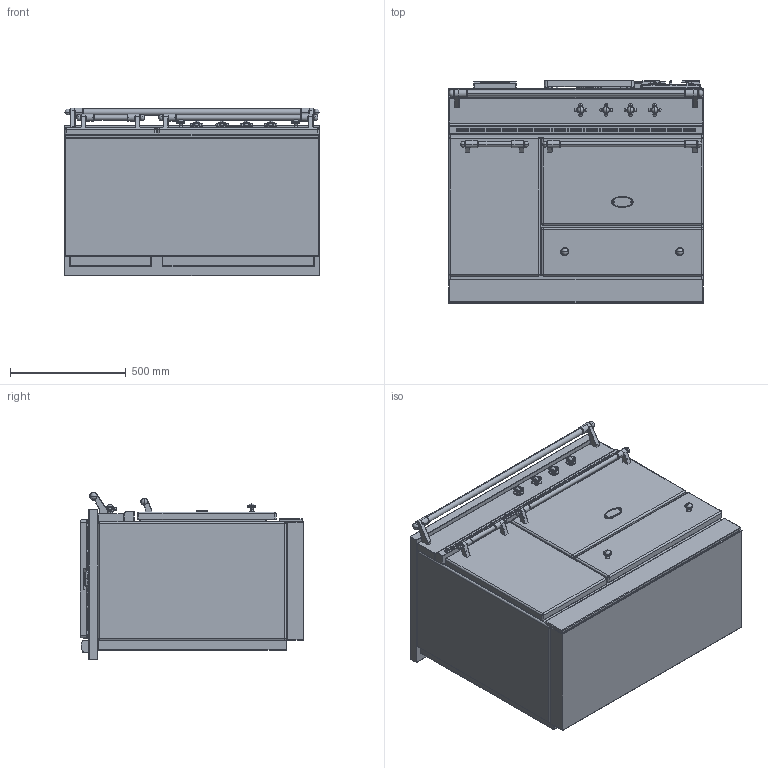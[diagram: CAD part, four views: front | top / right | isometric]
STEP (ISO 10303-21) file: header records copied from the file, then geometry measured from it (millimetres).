
FILE_DESCRIPTION((''),'2;1');
FILE_NAME('LCF1131_CHASSAGNE_ASM','2021-12-02T08:51:48',('r.avril'),(''),'CREO PARAMETRIC BY PTC INC, 2017260','CREO PARAMETRIC BY PTC INC, 2017260','');
FILE_SCHEMA(('AP203_CONFIGURATION_CONTROLLED_3D_DESIGN_OF_MECHANICAL_PARTS_AND_ASSEMBLIES_MIM_LF { 1 0 10303 403 2 1 2 }'));
Products named in the file (27): BASE_EXPORT_CHASSAGNE_LG1131; 65650003; 65650004; 6531940; 6531941; 6531943; 65049009; 65650001; 6538399; 1931942; 65080022_AF0; 6531942_ASM; BASE_EXPORT_CHASSAGNE_LG1131_ASM; TABLE_1105G_CLASSIQUE_3_FEUX; 5KW; 1_5KW; 3KW; 65062008; 65062012; 65149005; 90000549_ASM; 6537023; 90000565_ASM; CHEMINEE_2020_LG182_EXPORT_STEP; CHEMINEE_2020_LG371_EXPORT_STEP; TABLE_1105G_TRADITION_ASM; LCF1131_CHASSAGNE_ASM
Assembly tree (39 placements, depth 4):
  LCF1131_CHASSAGNE_ASM
    BASE_EXPORT_CHASSAGNE_LG1131_ASM
      BASE_EXPORT_CHASSAGNE_LG1131
      65650003
      65650004
      6531940  x2
      6531941  x2
      6531943  x2
      65049009
      65650001
      6531942_ASM  x4
        6538399
        1931942
        65080022_AF0
    TABLE_1105G_TRADITION_ASM
      TABLE_1105G_CLASSIQUE_3_FEUX
      5KW
      1_5KW
      3KW
      90000549_ASM
        65062008
        65062012
        65149005  x4
      90000565_ASM
        6537023
        65149005  x4
      CHEMINEE_2020_LG182_EXPORT_STEP
      CHEMINEE_2020_LG371_EXPORT_STEP
Bounding box: 1105 x 967 x 724 mm (x, y, z)
Volume: 402264283.1 mm3; surface area: 10563374.7 mm2
Topology: 47 solids, 55 shells, 6634 faces, 17120 edges, 10645 vertices
Faces by surface type: plane 3269, cylinder 1849, bspline 637, torus 281, sphere 260, cone 192, extrusion 134, revolution 12
Entity records: 225964 total; most frequent: CARTESIAN_POINT 60764, ORIENTED_EDGE 27748, DIRECTION 25298, EDGE_CURVE 13884, PRESENTATION_STYLE_ASSIGNMENT 9363, STYLED_ITEM 9340, CURVE_STYLE 9164, VECTOR 9140
